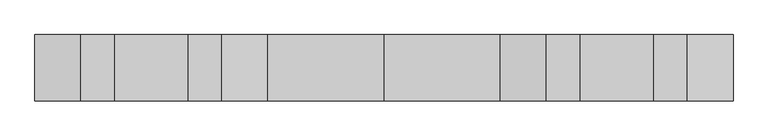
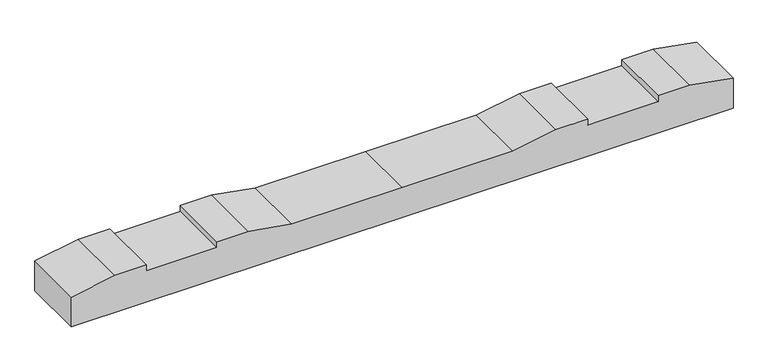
"""IFC4 building model written with IfcOpenShell, lengths in millimetres: proxy geometry, 轨枕-立面角度 : 轨枕-立面角度."""

from ifc_helpers import new_model, si_unit, frame, origin, place, context, project, spatial, polyline, outline, extrude, source, transform, mapped, element, save


def generic_models_77109654(model_context):
    return source(origin(), model_context, "Body", "SweptSolid", [
        extrude(outline(polyline([(0.0, 0.0), (0.0, -100.0206889), (-137.8834664, -124.5), (-237.8834664, -124.5), (-237.8834664, -104.5), (-461.8834664, -104.5), (-461.8834664, -124.5), (-561.8834664, -124.5), (-699.8834664, -100.0), (-1049.8834664, -100.0), (-1399.8834664, -100.0), (-1537.8834664, -124.5), (-1637.8834664, -124.5), (-1637.8834664, -104.5), (-1861.8834664, -104.5), (-1861.8834664, -124.5), (-1961.8834664, -124.5), (-2099.7669328, -100.0206889), (-2099.7669328, 0.0), (0.0, 0.0)])), frame((-1049.8834664, 99.9438562, -104.5536972), z_axis=(0.0, -0.9999998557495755, 0.0005371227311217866), x_axis=(-1.0, 0.0, 0.0)), (0.0, 0.0, 1.0), 200.0),
    ])


if __name__ == "__main__":
    model = new_model("IFC4")
    model_context = context("Model", 3, world=origin())
    ifc_project = project(units=[si_unit("LENGTHUNIT", "METRE", prefix="MILLI")], contexts=[model_context])
    site = spatial("IfcSite", under=ifc_project)
    building = spatial("IfcBuilding", under=site)
    placement = place(None, origin())
    generic_models_shape = generic_models_77109654(model_context)
    element("IfcBuildingElementProxy", 1, Name="轨枕-立面角度 : 轨枕-立面角度", ObjectType="轨枕-立面角度 : 轨枕-立面角度", at=placement, inside=building, context=model_context, shape_type="MappedRepresentation", body=[
        mapped(generic_models_shape, transform((0.0, 0.0, 0.0), x_axis=(1.0, 0.0, 0.0), y_axis=(0.0, 1.0, 0.0), z_axis=(0.0, 0.0, 1.0))),
    ])
    save(model, "model.ifc")
